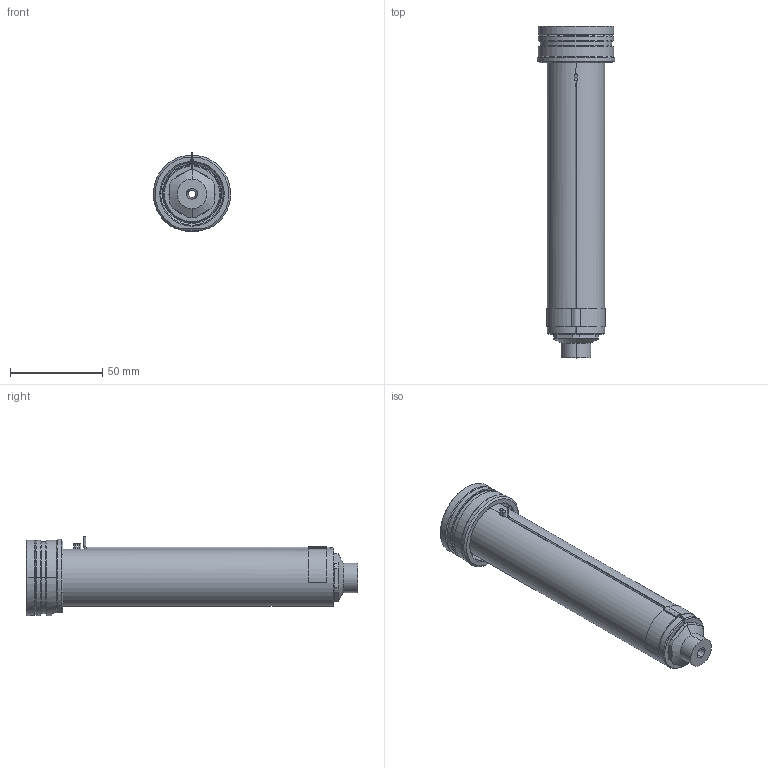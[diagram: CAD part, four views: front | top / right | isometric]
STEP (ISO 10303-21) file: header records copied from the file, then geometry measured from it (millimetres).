
FILE_DESCRIPTION((''),'2;1');
FILE_NAME('EO12_VG-ST_STD_160_SW','2024-02-19T12:51:14',('sundharh'),(''),'CREO PARAMETRIC BY PTC INC, 2023154','CREO PARAMETRIC BY PTC INC, 2023154','');
FILE_SCHEMA(('CONFIG_CONTROL_DESIGN'));
Length unit declared in the file: millimetre
Products named in the file (1): EO12_VG-ST_STD_160_SW
Bounding box: 41.85 x 180 x 43 mm (x, y, z)
Volume: 119754.7 mm3; surface area: 31175.1 mm2
Topology: 2 solids, 3 shells, 181 faces, 453 edges, 277 vertices
Faces by surface type: cylinder 65, plane 45, cone 37, torus 27, bspline 5, sphere 2
Entity records: 6167 total; most frequent: CARTESIAN_POINT 1732, DIRECTION 986, ORIENTED_EDGE 898, EDGE_CURVE 449, AXIS2_PLACEMENT_3D 412, VERTEX_POINT 277, CIRCLE 236, EDGE_LOOP 196
